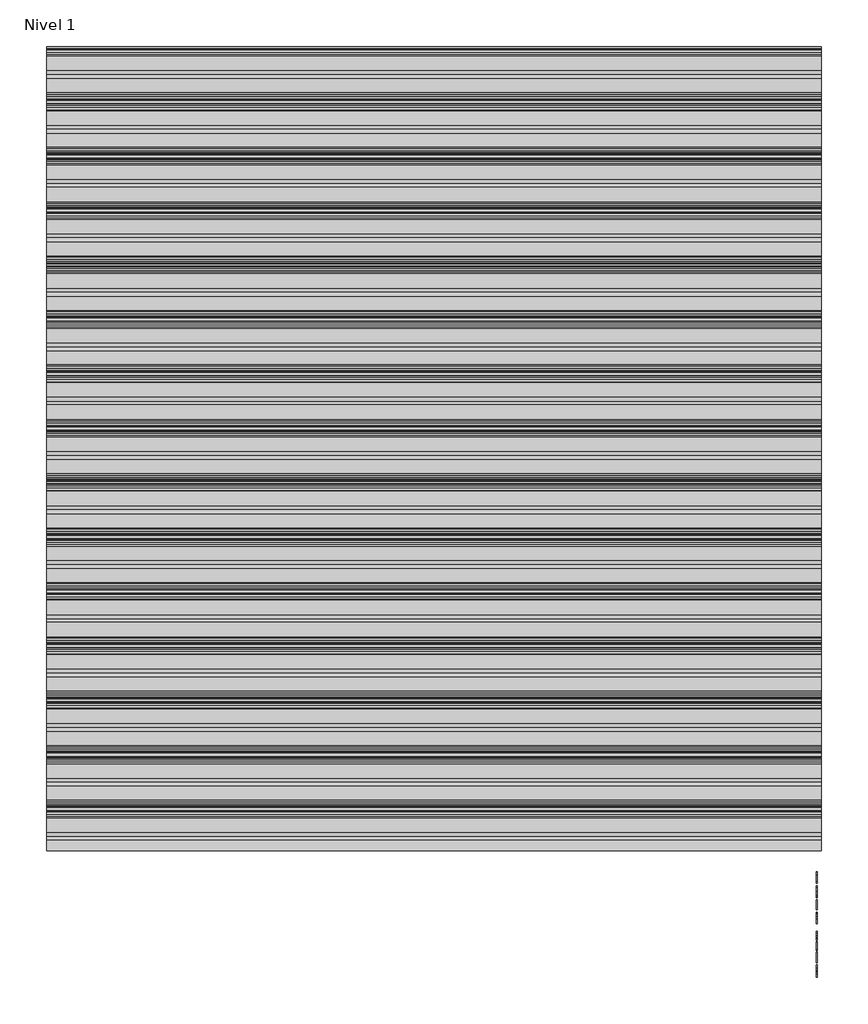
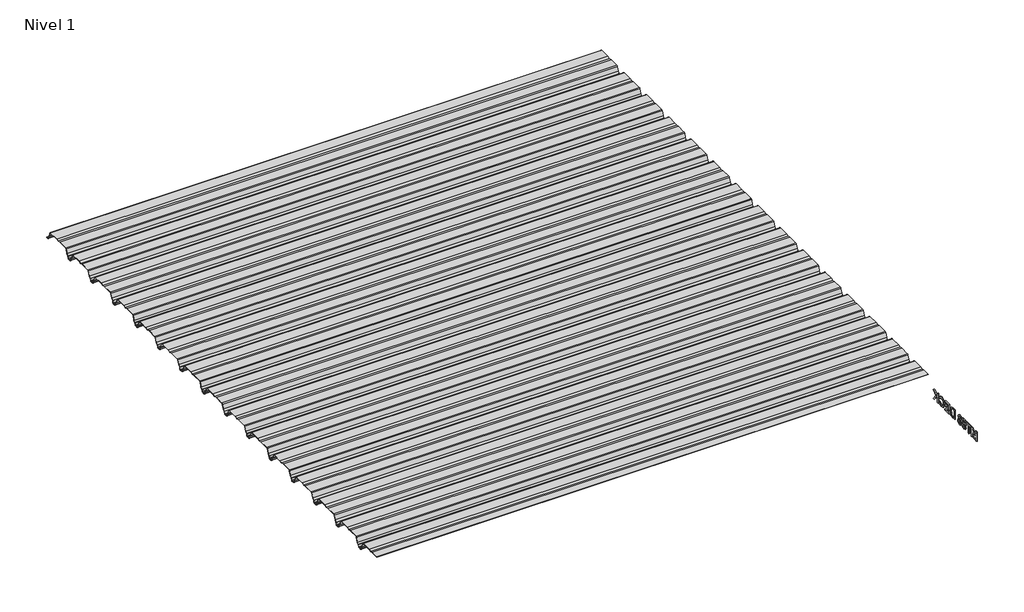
# One storey: 4 plates, 1 proxy.
"""IFC4 building model written with IfcOpenShell, lengths in millimetres."""

from ifc_helpers import new_model, si_unit, frame, origin, place, context, project, spatial, polyline, outline, extrude, transform, mapped, element, save
from components import plate_98c327d0, plate_ea0b20f8

model = new_model("IFC4")

# Units and contexts
model_context = context("Model", 3, world=origin())
ifc_project = project(units=[si_unit("LENGTHUNIT", "METRE", prefix="MILLI")], contexts=[model_context])

# Site, building, storey
site = spatial("IfcSite", under=ifc_project)
building = spatial("IfcBuilding", under=site)
storey = spatial("IfcBuildingStorey", under=building, Name="Nivel 1", Elevation=0.0)

# Proxy
placement = place(None, origin())
element("IfcBuildingElementProxy", 1, Name="100mm Arial", ObjectType="100mm Arial", at=placement, inside=storey, context=model_context, shape_type="SweptSolid", body=[
    extrude(outline(polyline([(14730.9542925, -1567.141573), (14730.9542925, -1506.8677869), (14743.918454, -1506.8677869), (14756.2498585, -1549.3507997), (14758.7367408, -1558.2241135), (14761.429637, -1548.6150358), (14773.5550276, -1506.8677869), (14786.5191891, -1506.8677869), (14786.5191891, -1567.141573), (14778.9849658, -1567.141573), (14778.9849658, -1514.4020102), (14763.8429429, -1567.141573), (14753.6305387, -1567.141573), (14738.4885158, -1514.4020102), (14738.4885158, -1567.141573), (14730.9542925, -1567.141573)])), frame((9557.0230098, 0.0, 0.0), z_axis=(1.0, 0.0, 0.0), x_axis=(0.0, 1.0, 0.0)), (0.0, 0.0, 1.0), 5.0),
    extrude(outline(polyline([(14814.7725263, -1567.141573), (14814.7725263, -1514.4020102), (14794.9951902, -1514.4020102), (14794.9951902, -1506.8677869), (14842.0840856, -1506.8677869), (14842.0840856, -1514.4020102), (14822.3067496, -1514.4020102), (14822.3067496, -1567.141573), (14814.7725263, -1567.141573)])), frame((9557.0230098, 0.0, 0.0), z_axis=(1.0, 0.0, 0.0), x_axis=(0.0, 1.0, 0.0)), (0.0, 0.0, 1.0), 5.0),
    extrude(outline(polyline([(14847.7347531, -1551.1313486), (14855.2689763, -1550.1895707), (14859.0655185, -1557.9518808), (14866.9381932, -1560.5491277), (14876.3854029, -1556.9365265), (14879.7552019, -1547.3495217), (14876.5987744, -1538.4026316), (14867.0559155, -1535.1211242), (14860.4413972, -1536.4307841), (14856.2107542, -1539.8300137), (14848.676531, -1538.8882358), (14855.2689763, -1507.8095648), (14884.4640915, -1507.8095648), (14884.4640915, -1515.3437881), (14861.3611022, -1515.3437881), (14858.1384559, -1531.9426237), (14869.1602005, -1527.5869009), (14882.0434279, -1532.9874086), (14887.2894252, -1546.8786327), (14882.5658204, -1560.8581486), (14875.7820764, -1566.2770503), (14866.9087627, -1568.0833509), (14853.6135074, -1563.4406802), (14847.7347531, -1551.1313486)])), frame((9557.0230098, 0.0, 0.0), z_axis=(1.0, 0.0, 0.0), x_axis=(0.0, 1.0, 0.0)), (0.0, 0.0, 1.0), 5.0),
    extrude(outline(polyline([(14932.4947648, -1522.8780114), (14924.9605415, -1523.8197893), (14922.1057772, -1517.5363648), (14914.5568387, -1514.4020102), (14907.7583794, -1516.2267049), (14902.6153891, -1523.0766676), (14900.4743159, -1536.5043605), (14907.1182647, -1530.4931687), (14915.3514638, -1528.5286788), (14928.1537572, -1533.8997559), (14933.4365427, -1547.7762648), (14930.9496604, -1558.17261), (14924.1070553, -1565.5302499), (14914.2331025, -1568.0833509), (14905.6853644, -1566.3910938), (14898.877708, -1561.3143222), (14894.4244965, -1552.3527168), (14892.9400926, -1539.005958), (14894.588204, -1524.0000515), (14899.532538, -1513.7398226), (14906.2831726, -1508.5857959), (14915.0277276, -1506.8677869), (14926.932389, -1511.1205028), (14932.4947648, -1522.8780114)]), holes=[polyline([(14900.4743159, -1547.6585426), (14902.2180766, -1554.1847692), (14906.8533897, -1558.9230893), (14913.6444913, -1560.5491277), (14922.5251627, -1557.1793286), (14925.9023194, -1548.0264246), (14922.5693085, -1539.2634754), (14913.3354704, -1536.0629021), (14904.2193546, -1539.2634754), (14900.4743159, -1547.6585426)])]), frame((9557.0230098, 0.0, 0.0), z_axis=(1.0, 0.0, 0.0), x_axis=(0.0, 1.0, 0.0)), (0.0, 0.0, 1.0), 5.0),
    extrude(outline(polyline([(14966.3987694, -1567.141573), (14966.3987694, -1506.8677869), (14987.1914598, -1506.8677869), (14997.9483293, -1507.7359884), (15006.8069278, -1512.0475654), (15013.9438385, -1522.3482613), (15016.3129985, -1536.6809438), (15014.709033, -1548.8431226), (15010.5887547, -1557.620787), (15005.08524, -1563.0875134), (14997.8821106, -1566.1115034), (14988.1920988, -1567.141573), (14966.3987694, -1567.141573)]), holes=[polyline([(14973.9329927, -1559.6073498), (14987.2650362, -1559.6073498), (14996.9624056, -1558.5184191), (15002.5542119, -1555.4429256), (15007.1380216, -1547.9602058), (15008.7787753, -1536.5632216), (15005.5634866, -1522.2894002), (14997.7423154, -1515.6086631), (14987.0590223, -1514.4020102), (14973.9329927, -1514.4020102), (14973.9329927, -1559.6073498)])]), frame((9557.0230098, 0.0, 0.0), z_axis=(1.0, 0.0, 0.0), x_axis=(0.0, 1.0, 0.0)), (0.0, 0.0, 1.0), 5.0),
    extrude(outline(polyline([(15026.6725555, -1567.141573), (15026.6725555, -1506.8677869), (15069.9943393, -1506.8677869), (15069.9943393, -1514.4020102), (15034.2067788, -1514.4020102), (15034.2067788, -1532.2957904), (15068.1107835, -1532.2957904), (15068.1107835, -1539.8300137), (15034.2067788, -1539.8300137), (15034.2067788, -1559.6073498), (15070.9361172, -1559.6073498), (15070.9361172, -1567.141573), (15026.6725555, -1567.141573)])), frame((9557.0230098, 0.0, 0.0), z_axis=(1.0, 0.0, 0.0), x_axis=(0.0, 1.0, 0.0)), (0.0, 0.0, 1.0), 5.0),
    extrude(outline(polyline([(15124.6174579, -1545.7161256), (15132.1516812, -1547.6585426), (15123.2195063, -1562.852069), (15107.4447264, -1568.0833509), (15091.7655957, -1564.1249407), (15082.5685459, -1552.6617377), (15079.4121184, -1536.5485063), (15082.9805737, -1520.1703999), (15093.1267591, -1509.5533255), (15107.6065945, -1505.926009), (15122.6971139, -1510.6201833), (15131.2099033, -1523.8345046), (15123.67568, -1525.6297687), (15117.4952625, -1516.3665001), (15107.3122889, -1513.4602323), (15095.5253497, -1516.6828786), (15088.8666856, -1525.3354631), (15086.9463416, -1536.533791), (15089.2198523, -1549.5126678), (15096.2979019, -1557.804728), (15106.6942471, -1560.5491277), (15118.2236688, -1556.8114466), (15124.6174579, -1545.7161256)])), frame((9557.0230098, 0.0, 0.0), z_axis=(1.0, 0.0, 0.0), x_axis=(0.0, 1.0, 0.0)), (0.0, 0.0, 1.0), 5.0),
    extrude(outline(polyline([(15142.5112382, -1567.141573), (15142.5112382, -1506.8677869), (15150.0454614, -1506.8677869), (15150.0454614, -1536.371923), (15180.947549, -1506.8677869), (15191.4836894, -1506.8677869), (15165.5406511, -1531.6483181), (15192.4254673, -1567.141573), (15183.2137021, -1567.141573), (15160.1990045, -1536.7398049), (15150.0454614, -1546.4224591), (15150.0454614, -1567.141573), (15142.5112382, -1567.141573)])), frame((9557.0230098, 0.0, 0.0), z_axis=(1.0, 0.0, 0.0), x_axis=(0.0, 1.0, 0.0)), (0.0, 0.0, 1.0), 5.0),
])

# Plates
plate_shape = plate_98c327d0(model_context)
element("IfcPlate", 2, ObjectType="HIANSA- H20.F08.006-CHAPA PERFILADA CUBIERTA - MT56 DECK - Panel de Muro Cortina : -", at=placement, inside=storey, context=model_context, shape_type="MappedRepresentation", body=[
    mapped(plate_shape, transform((9579.0356399, 18322.3330794, -1529.5962409), x_axis=(0.0, -1.0, 0.0), y_axis=(0.0, 0.0, 1.0), z_axis=(-1.0, 0.0, 0.0))),
])
element("IfcPlate", 3, ObjectType="HIANSA- H20.F08.006-CHAPA PERFILADA CUBIERTA - MT56 DECK - Panel de Muro Cortina : -", at=placement, inside=storey, context=model_context, shape_type="MappedRepresentation", body=[
    mapped(plate_shape, transform((9579.0356399, 17370.3330793, -1529.5962409), x_axis=(0.0, -1.0, 0.0), y_axis=(0.0, 0.0, 1.0), z_axis=(-1.0, 0.0, 0.0))),
])
element("IfcPlate", 4, ObjectType="HIANSA- H20.F08.006-CHAPA PERFILADA CUBIERTA - MT56 DECK - Panel de Muro Cortina : -", at=placement, inside=storey, context=model_context, shape_type="MappedRepresentation", body=[
    mapped(plate_shape, transform((9579.0356399, 16418.3330793, -1529.5962409), x_axis=(0.0, -1.0, 0.0), y_axis=(0.0, 0.0, 1.0), z_axis=(-1.0, 0.0, 0.0))),
])
plate_2_shape = plate_ea0b20f8(model_context)
element("IfcPlate", 5, ObjectType="HIANSA- H20.F08.006-CHAPA PERFILADA CUBIERTA - MT56 DECK - Panel de Muro Cortina : -", at=placement, inside=storey, context=model_context, shape_type="MappedRepresentation", body=[
    mapped(plate_2_shape, transform((9579.0356399, 15620.3330794, -1529.5962409), x_axis=(0.0, -1.0, 0.0), y_axis=(0.0, 0.0, 1.0), z_axis=(-1.0, 0.0, 0.0))),
])

save(model, "model.ifc")
